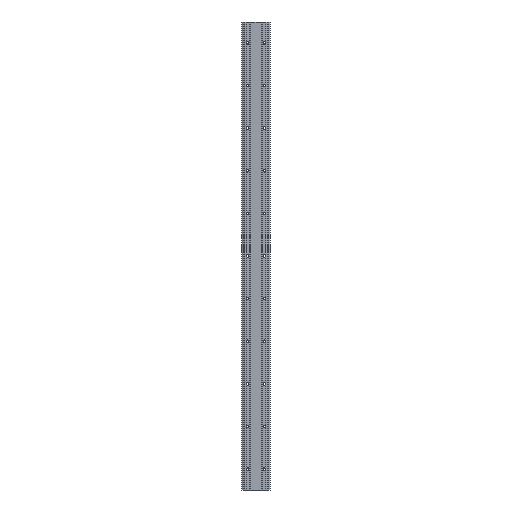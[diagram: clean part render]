
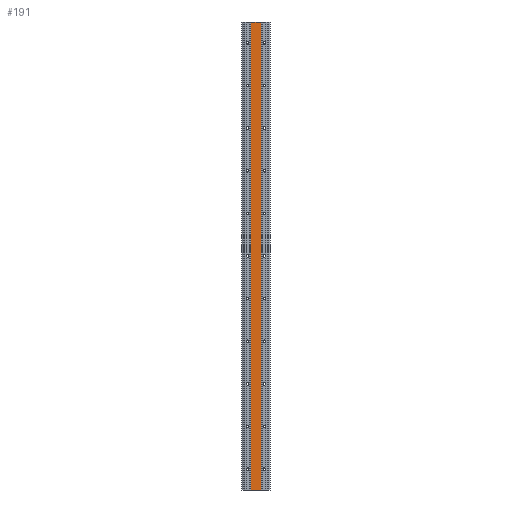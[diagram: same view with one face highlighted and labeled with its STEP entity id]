
A CAD part, front view. The second image highlights one B-rep face of the part: STEP entity #191.
In plain terms, the highlighted planar face has unit normal (0, -1, 0).
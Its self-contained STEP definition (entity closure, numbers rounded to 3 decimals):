
#191=ADVANCED_FACE('',(#478),#479,.T.);
#478=FACE_OUTER_BOUND('',#840,.T.);
#479=PLANE('',#841);
#840=EDGE_LOOP('',(#1760,#1761,#1762,#1763));
#841=AXIS2_PLACEMENT_3D('',#1764,#1765,#1766);
#1760=ORIENTED_EDGE('',*,*,#2423,.T.);
#1761=ORIENTED_EDGE('',*,*,#2424,.F.);
#1762=ORIENTED_EDGE('',*,*,#2425,.T.);
#1763=ORIENTED_EDGE('',*,*,#2421,.T.);
#1764=CARTESIAN_POINT('',(0.0,9.5,0.0));
#1765=DIRECTION('',(0.0,-1.0,0.0));
#1766=DIRECTION('',(1.0,0.0,0.0));
#2421=EDGE_CURVE('',#2990,#2988,#2991,.T.);
#2423=EDGE_CURVE('',#2988,#2993,#2994,.T.);
#2424=EDGE_CURVE('',#2995,#2993,#2996,.T.);
#2425=EDGE_CURVE('',#2995,#2990,#2997,.T.);
#2988=VERTEX_POINT('',#3708);
#2990=VERTEX_POINT('',#3711);
#2991=LINE('',#3712,#3713);
#2993=VERTEX_POINT('',#3716);
#2994=LINE('',#3717,#3718);
#2995=VERTEX_POINT('',#3719);
#2996=LINE('',#3720,#3721);
#2997=LINE('',#3722,#3723);
#3708=CARTESIAN_POINT('',(22.5,9.5,1976.0));
#3711=CARTESIAN_POINT('',(22.5,9.5,0.0));
#3712=CARTESIAN_POINT('',(22.5,9.5,0.0));
#3713=VECTOR('',#4573,1.0);
#3716=CARTESIAN_POINT('',(-22.5,9.5,1976.0));
#3717=CARTESIAN_POINT('',(-22.5,9.5,1976.0));
#3718=VECTOR('',#4575,1.0);
#3719=CARTESIAN_POINT('',(-22.5,9.5,0.0));
#3720=CARTESIAN_POINT('',(-22.5,9.5,0.0));
#3721=VECTOR('',#4576,1.0);
#3722=CARTESIAN_POINT('',(-22.5,9.5,0.0));
#3723=VECTOR('',#4577,1.0);
#4573=DIRECTION('',(0.0,0.0,1.0));
#4575=DIRECTION('',(-1.0,-0.0,-0.0));
#4576=DIRECTION('',(0.0,0.0,1.0));
#4577=DIRECTION('',(1.0,0.0,0.0));
